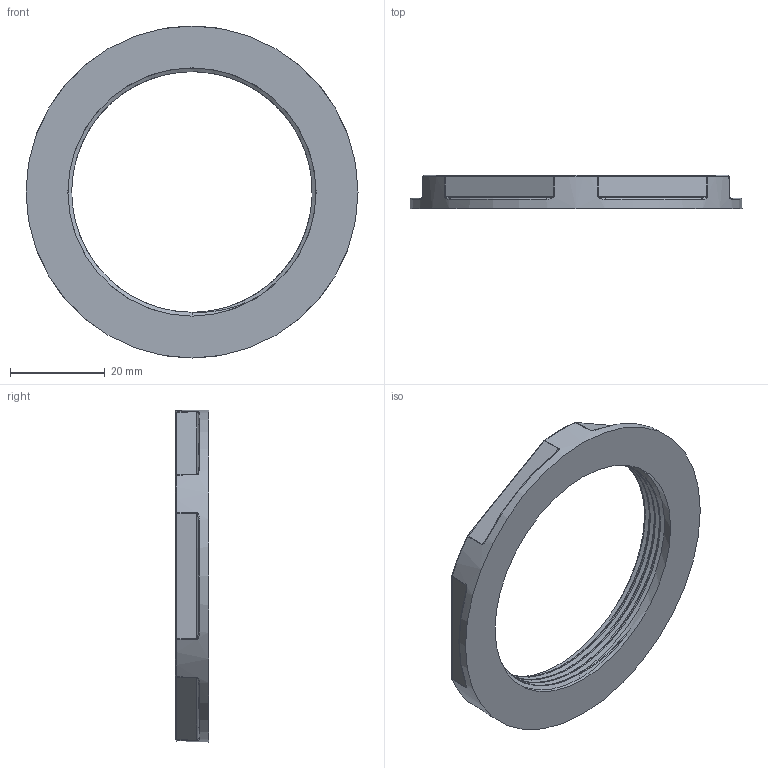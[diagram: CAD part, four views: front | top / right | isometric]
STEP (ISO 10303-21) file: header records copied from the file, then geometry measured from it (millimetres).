
FILE_DESCRIPTION (( 'STEP AP203' ), '1' );
FILE_NAME ('Ãàéêà ïðèæèìíàÿ (PG42-Ì52).STEP', '2020-08-06T09:31:42', ( '' ), ( '' ), 'SwSTEP 2.0', 'SolidWorks 2019', '' );
FILE_SCHEMA (( 'CONFIG_CONTROL_DESIGN' ));
Length unit declared in the file: millimetre
Products named in the file (1): Ãàéêà ïðèæèìíàÿ (PG42-Ì52)
Bounding box: 70 x 7 x 70 mm (x, y, z)
Volume: 10785.4 mm3; surface area: 6607.9 mm2
Topology: 1 solids, 1 shells, 86 faces, 201 edges, 105 vertices
Faces by surface type: bspline 30, cylinder 17, plane 14, torus 12, sphere 12, cone 1
Full cylindrical faces by diameter (mm): 52.35 x4
Entity records: 4396 total; most frequent: CARTESIAN_POINT 2744, ORIENTED_EDGE 348, DIRECTION 308, EDGE_CURVE 174, AXIS2_PLACEMENT_3D 141, VERTEX_POINT 96, CIRCLE 88, EDGE_LOOP 86
